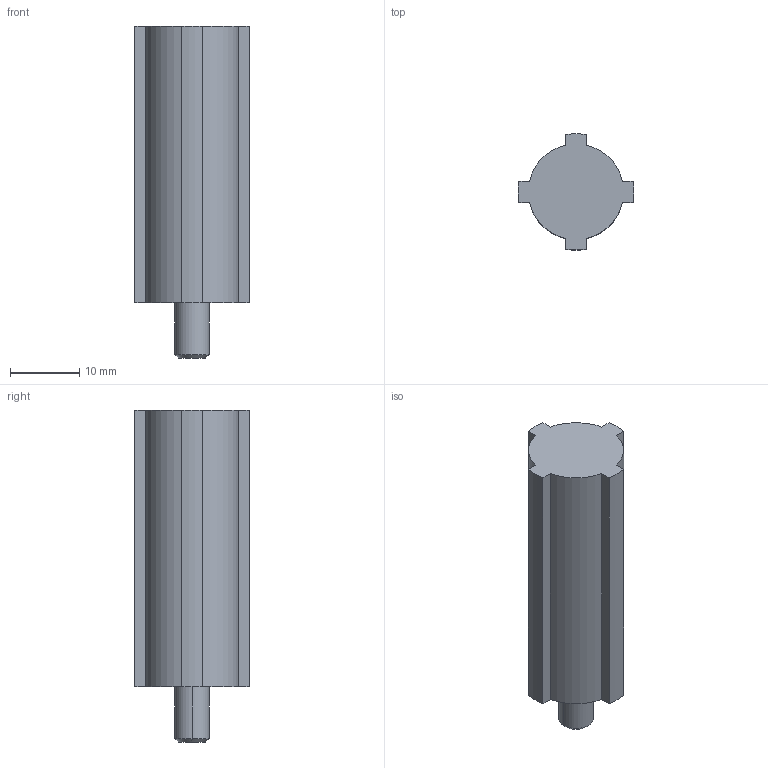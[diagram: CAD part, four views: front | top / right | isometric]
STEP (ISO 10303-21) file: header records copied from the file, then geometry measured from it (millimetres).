
FILE_DESCRIPTION(('CATIA V5 STEP Exchange'),'2;1');
FILE_NAME('D:\姚明阳\GZ25\GZ25.02_V1.stp','2021-03-18T07:45:26+00:00',('none'),('none'),'CATIA Version 5 Release 21 GA (IN-10)','CATIA V5 STEP AP214','none');
FILE_SCHEMA(('AUTOMOTIVE_DESIGN { 1 0 10303 214 1 1 1 1 }'));
Length unit declared in the file: millimetre
Products named in the file (1): Part1
Bounding box: 16.77 x 16.77 x 48 mm (x, y, z)
Volume: 6862.8 mm3; surface area: 2678.6 mm2
Topology: 1 solids, 1 shells, 23 faces, 58 edges, 38 vertices
Faces by surface type: plane 11, cylinder 10, cone 2
Entity records: 653 total; most frequent: ORIENTED_EDGE 116, CARTESIAN_POINT 111, DIRECTION 86, EDGE_CURVE 58, VERTEX_POINT 38, AXIS2_PLACEMENT_3D 37, VECTOR 36, LINE 36
